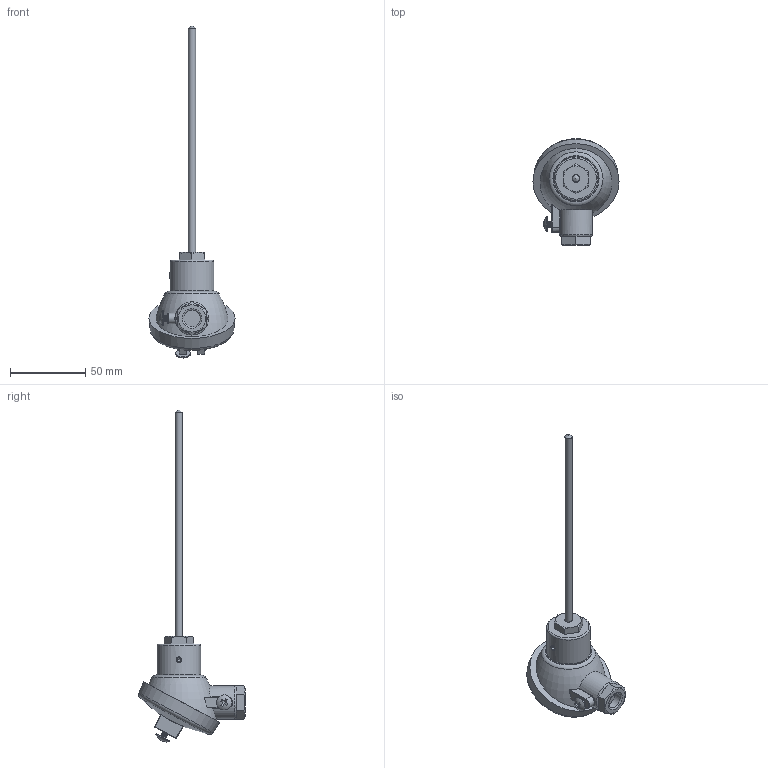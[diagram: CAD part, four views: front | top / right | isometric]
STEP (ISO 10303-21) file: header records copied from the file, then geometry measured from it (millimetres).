
FILE_DESCRIPTION (( 'STEP AP203' ), '1' );
FILE_NAME ('YIT30N_1(1).STEP', '2024-12-11T04:42:20', ( '' ), ( '' ), 'SwSTEP 2.0', 'SolidWorks 2021', '' );
FILE_SCHEMA (( 'CONFIG_CONTROL_DESIGN' ));
Length unit declared in the file: millimetre
Products named in the file (1): YIT30N_1(1)
Bounding box: 57 x 70.64 x 219.9 mm (x, y, z)
Volume: 80714.2 mm3; surface area: 16336.8 mm2
Topology: 1 solids, 2 shells, 186 faces, 445 edges, 275 vertices
Faces by surface type: plane 88, cylinder 47, bspline 19, cone 13, torus 11, sphere 8
Full cylindrical faces by diameter (mm): 3.5 x3, 3.6 x1, 3.8 x10, 4.8 x1, 10 x2, 11 x1, 16 x1, 16.5 x1, 22 x1, 29 x1
Entity records: 7863 total; most frequent: CARTESIAN_POINT 4280, ORIENTED_EDGE 714, DIRECTION 677, EDGE_CURVE 357, AXIS2_PLACEMENT_3D 263, VERTEX_POINT 230, EDGE_LOOP 217, FACE_OUTER_BOUND 195
